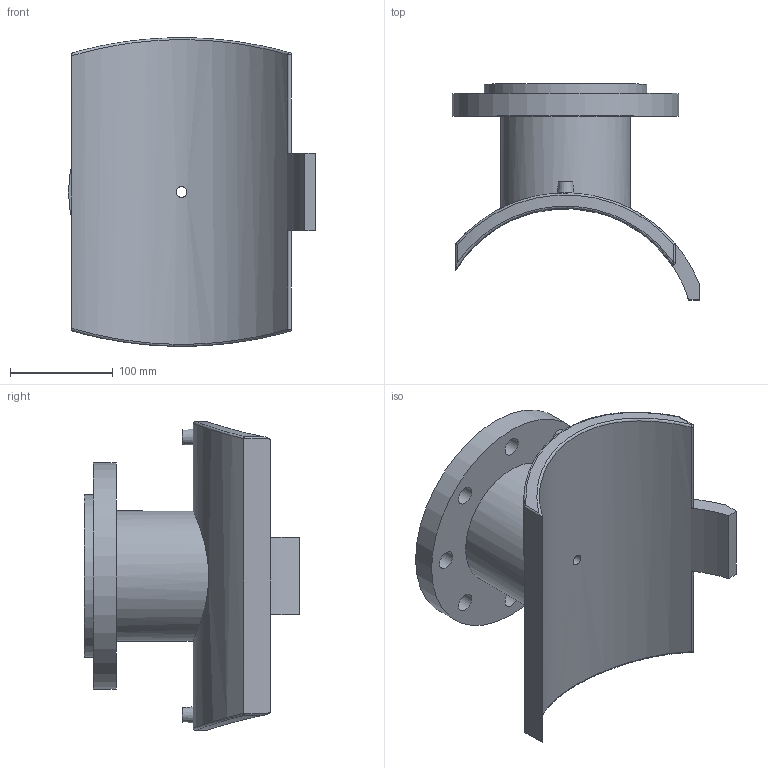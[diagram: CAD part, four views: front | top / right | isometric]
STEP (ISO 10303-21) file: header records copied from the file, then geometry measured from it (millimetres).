
FILE_DESCRIPTION(/* description */ ('PLASSON FLANGED BRANCH SADDLE 250x100'),/* implementation_level */ '2;1');
FILE_NAME(/* name */ 'C:\Dropbox\KIMPROJECTS-Inventor 2019\99-16-3568-Processing\ElectroFusion Fittings\495904_495903\stp\495903250100T.stp',/* time_stamp */ '2024-04-03T20:59:59+02:00',/* author */ ('KIM'),/* organization */ (''),/* preprocessor_version */ 'ST-DEVELOPER v17.2',/* originating_system */ 'Autodesk Inventor 2019',/* authorisation */ '');
FILE_SCHEMA (('AUTOMOTIVE_DESIGN { 1 0 10303 214 3 1 1 }'));
Length unit declared in the file: millimetre
Products named in the file (1): 495903250100T
Bounding box: 240.35 x 209.92 x 299.97 mm (x, y, z)
Volume: 2222206.1 mm3; surface area: 323322.1 mm2
Topology: 1 solids, 1 shells, 58 faces, 151 edges, 118 vertices
Faces by surface type: cylinder 31, plane 17, sphere 4, bspline 4, cone 2
Full cylindrical faces by diameter (mm): 4 x2, 10 x2, 10.4 x1, 16 x1, 18 x8, 101 x1, 126.4 x1, 158 x1, 220 x1
Entity records: 2432 total; most frequent: CARTESIAN_POINT 936, DIRECTION 297, ORIENTED_EDGE 274, EDGE_CURVE 137, AXIS2_PLACEMENT_3D 125, VERTEX_POINT 92, EDGE_LOOP 87, CIRCLE 70
